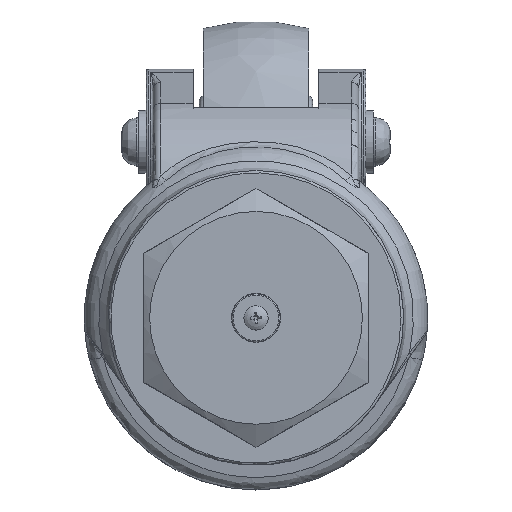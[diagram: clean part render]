
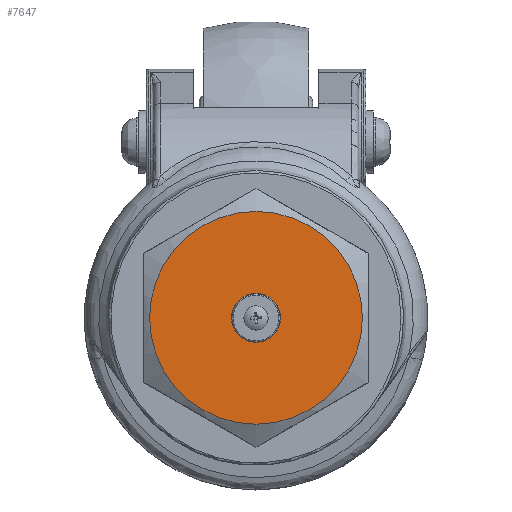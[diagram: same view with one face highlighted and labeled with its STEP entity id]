
A CAD part, top view. The second image highlights one B-rep face of the part: STEP entity #7647.
In plain terms, the highlighted planar face has unit normal (0, 0, 1).
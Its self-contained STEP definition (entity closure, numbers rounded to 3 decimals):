
#7149=CARTESIAN_POINT('',(-62.704,-3.767,73.873));
#7150=VERTEX_POINT('',#7149);
#7151=CARTESIAN_POINT('',(-65.23,0.609,73.873));
#7152=DIRECTION('',(0.,0.,-1.0));
#7153=DIRECTION('',(0.5,-0.866,0.));
#7154=AXIS2_PLACEMENT_3D('',#7151,#7152,#7153);
#7155=CIRCLE('',#7154,5.053);
#7156=EDGE_CURVE('',#7150,#7150,#7155,.T.);
#7624=CARTESIAN_POINT('',(-76.23,19.662,73.873));
#7625=VERTEX_POINT('',#7624);
#7626=CARTESIAN_POINT('',(-65.23,0.609,73.873));
#7627=DIRECTION('',(0.,0.,-1.0));
#7628=DIRECTION('',(0.5,-0.866,0.));
#7629=AXIS2_PLACEMENT_3D('',#7626,#7627,#7628);
#7630=CIRCLE('',#7629,22.0);
#7631=EDGE_CURVE('',#7625,#7625,#7630,.T.);
#7636=CARTESIAN_POINT('',(-65.23,0.609,73.873));
#7637=DIRECTION('',(0.0,0.0,1.0));
#7638=DIRECTION('',(0.5,-0.866,0.0));
#7639=AXIS2_PLACEMENT_3D('',#7636,#7637,#7638);
#7640=PLANE('',#7639);
#7641=ORIENTED_EDGE('',*,*,#7631,.F.);
#7642=EDGE_LOOP('',(#7641));
#7643=FACE_OUTER_BOUND('',#7642,.T.);
#7644=ORIENTED_EDGE('',*,*,#7156,.T.);
#7645=EDGE_LOOP('',(#7644));
#7646=FACE_BOUND('',#7645,.T.);
#7647=ADVANCED_FACE('',(#7643,#7646),#7640,.T.);
